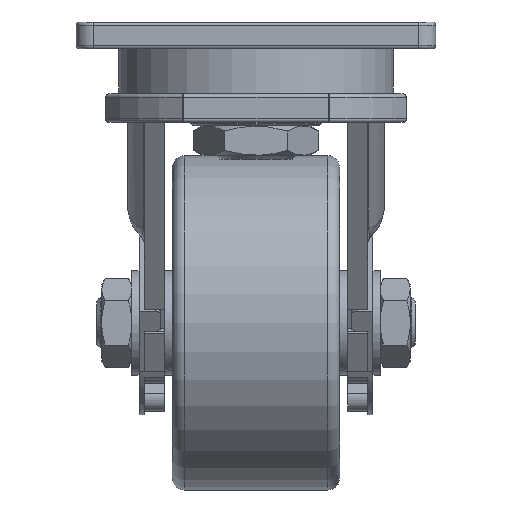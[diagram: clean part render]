
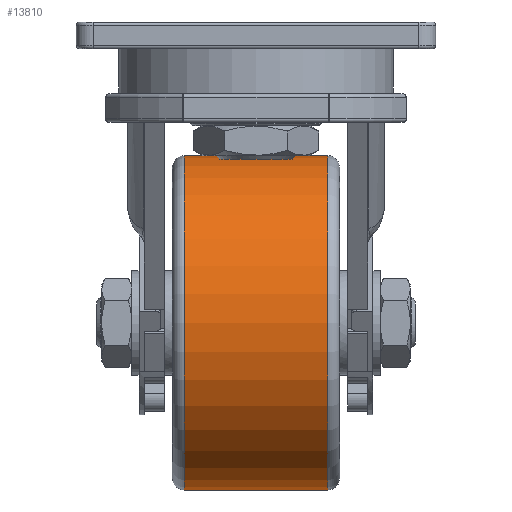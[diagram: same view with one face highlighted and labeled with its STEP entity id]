
A CAD part, left-side view. The second image highlights one B-rep face of the part: STEP entity #13810.
In plain terms, the highlighted cylindrical face has radius 100.001 mm (diameter 200.001 mm), a full revolution.
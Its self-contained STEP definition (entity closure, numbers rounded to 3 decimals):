
#13783=CARTESIAN_POINT('',(-110.388,35.173,11.488));
#13784=DIRECTION('',(0.0,1.0,0.0));
#13785=DIRECTION('',(-1.0,0.0,0.0));
#13786=AXIS2_PLACEMENT_3D('',#13783,#13784,#13785);
#13787=CYLINDRICAL_SURFACE('',#13786,100.001);
#13788=CARTESIAN_POINT('',(-110.388,-7.827,111.489));
#13789=VERTEX_POINT('',#13788);
#13790=CARTESIAN_POINT('',(-110.388,-7.827,11.488));
#13791=DIRECTION('',(0.0,1.0,0.0));
#13792=DIRECTION('',(-1.0,0.0,0.0));
#13793=AXIS2_PLACEMENT_3D('',#13790,#13791,#13792);
#13794=CIRCLE('',#13793,100.001);
#13795=EDGE_CURVE('',#13789,#13789,#13794,.T.);
#13796=ORIENTED_EDGE('',*,*,#13795,.T.);
#13797=EDGE_LOOP('',(#13796));
#13798=FACE_OUTER_BOUND('',#13797,.T.);
#13799=CARTESIAN_POINT('',(-110.388,78.173,111.489));
#13800=VERTEX_POINT('',#13799);
#13801=CARTESIAN_POINT('',(-110.388,78.173,11.488));
#13802=DIRECTION('',(0.0,1.0,0.0));
#13803=DIRECTION('',(-1.0,0.0,0.0));
#13804=AXIS2_PLACEMENT_3D('',#13801,#13802,#13803);
#13805=CIRCLE('',#13804,100.001);
#13806=EDGE_CURVE('',#13800,#13800,#13805,.T.);
#13807=ORIENTED_EDGE('',*,*,#13806,.F.);
#13808=EDGE_LOOP('',(#13807));
#13809=FACE_BOUND('',#13808,.T.);
#13810=ADVANCED_FACE('',(#13798,#13809),#13787,.T.);
